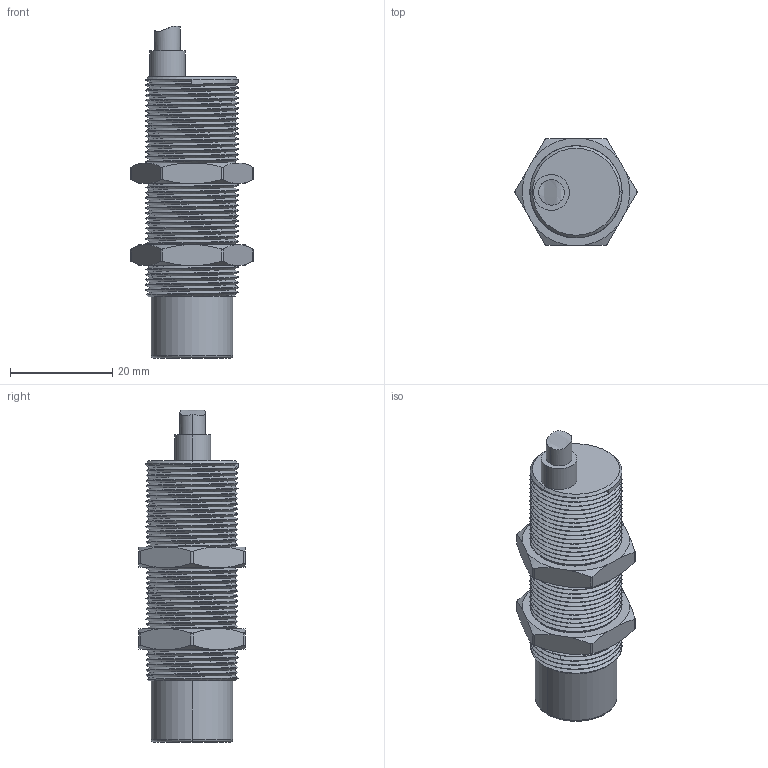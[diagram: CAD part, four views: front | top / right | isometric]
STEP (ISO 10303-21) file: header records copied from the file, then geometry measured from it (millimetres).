
FILE_DESCRIPTION((''),'2;1');
FILE_NAME('M18_FQP_2019_ASM','2019-07-17T',('Administrator'),(''),'PRO/ENGINEER BY PARAMETRIC TECHNOLOGY CORPORATION, 2012130','PRO/ENGINEER BY PARAMETRIC TECHNOLOGY CORPORATION, 2012130','');
FILE_SCHEMA(('AUTOMOTIVE_DESIGN { 1 0 10303 214 1 1 1 1 }'));
Length unit declared in the file: millimetre
Products named in the file (3): M18_FQP_2019; M18_LM; M18_FQP_2019_ASM
Assembly tree (3 placements, depth 2):
  M18_FQP_2019_ASM
    M18_FQP_2019
    M18_LM  x2
Bounding box: 23.84 x 20.78 x 64.87 mm (x, y, z)
Volume: 13889.8 mm3; surface area: 7388.4 mm2
Topology: 3 solids, 3 shells, 202 faces, 561 edges, 368 vertices
Faces by surface type: cylinder 118, bspline 30, cone 27, plane 24, torus 2, extrusion 1
Entity records: 17021 total; most frequent: CARTESIAN_POINT 13192, ORIENTED_EDGE 902, DIRECTION 509, EDGE_CURVE 451, VERTEX_POINT 295, B_SPLINE_CURVE_WITH_KNOTS 263, AXIS2_PLACEMENT_3D 177, EDGE_LOOP 168
